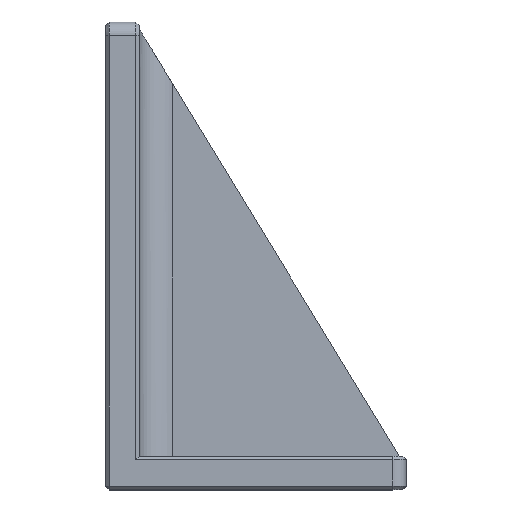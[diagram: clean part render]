
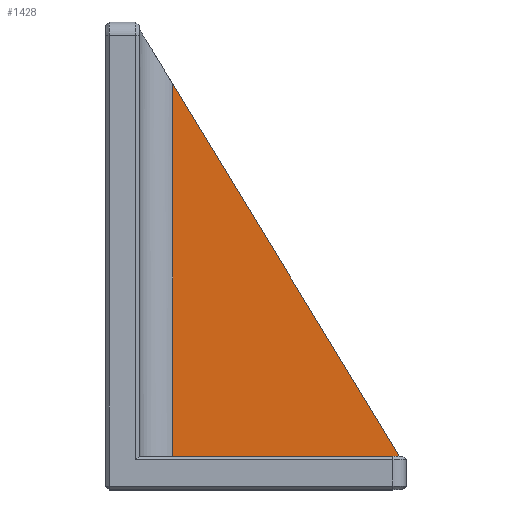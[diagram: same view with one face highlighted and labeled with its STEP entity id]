
A CAD part, top view. The second image highlights one B-rep face of the part: STEP entity #1428.
In plain terms, the highlighted planar face has unit normal (0, 0, 1).
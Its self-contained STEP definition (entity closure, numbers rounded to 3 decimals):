
#18 = FACE_OUTER_BOUND ( 'NONE', #1104, .T. ) ;
#71 = LINE ( 'NONE', #1813, #1149 ) ;
#100 = LINE ( 'NONE', #1379, #1897 ) ;
#174 = DIRECTION ( 'NONE',  ( 0., -1., 0. ) ) ;
#198 = ORIENTED_EDGE ( 'NONE', *, *, #2154, .T. ) ;
#262 = ORIENTED_EDGE ( 'NONE', *, *, #702, .T. ) ;
#282 = CARTESIAN_POINT ( 'NONE',  ( 5., 12.104, 26.5 ) ) ;
#334 = VECTOR ( 'NONE', #2151, 1000. ) ;
#342 = EDGE_CURVE ( 'NONE', #741, #1153, #1420, .T. ) ;
#503 = CARTESIAN_POINT ( 'NONE',  ( 5., -43.69, 26.5 ) ) ;
#533 = CARTESIAN_POINT ( 'NONE',  ( 0., 0., 26.5 ) ) ;
#576 = CARTESIAN_POINT ( 'NONE',  ( 39., -43.69, 26.5 ) ) ;
#702 = EDGE_CURVE ( 'NONE', #803, #741, #71, .T. ) ;
#741 = VERTEX_POINT ( 'NONE', #1346 ) ;
#803 = VERTEX_POINT ( 'NONE', #503 ) ;
#1035 = PLANE ( 'NONE',  #1251 ) ;
#1104 = EDGE_LOOP ( 'NONE', ( #1962, #198, #262 ) ) ;
#1149 = VECTOR ( 'NONE', #1482, 1000. ) ;
#1153 = VERTEX_POINT ( 'NONE', #282 ) ;
#1251 = AXIS2_PLACEMENT_3D ( 'NONE', #533, #1752, #1927 ) ;
#1346 = CARTESIAN_POINT ( 'NONE',  ( 39., -43.69, 26.5 ) ) ;
#1379 = CARTESIAN_POINT ( 'NONE',  ( 5., -43.69, 26.5 ) ) ;
#1420 = LINE ( 'NONE', #576, #334 ) ;
#1428 = ADVANCED_FACE ( 'NONE', ( #18 ), #1035, .F. ) ;
#1482 = DIRECTION ( 'NONE',  ( 1., 0., 0. ) ) ;
#1752 = DIRECTION ( 'NONE',  ( 0., 0., -1. ) ) ;
#1813 = CARTESIAN_POINT ( 'NONE',  ( 39., -43.69, 26.5 ) ) ;
#1897 = VECTOR ( 'NONE', #174, 1000. ) ;
#1927 = DIRECTION ( 'NONE',  ( -1., 0., 0. ) ) ;
#1962 = ORIENTED_EDGE ( 'NONE', *, *, #342, .T. ) ;
#2151 = DIRECTION ( 'NONE',  ( -0.52, 0.854, 0. ) ) ;
#2154 = EDGE_CURVE ( 'NONE', #1153, #803, #100, .T. ) ;
